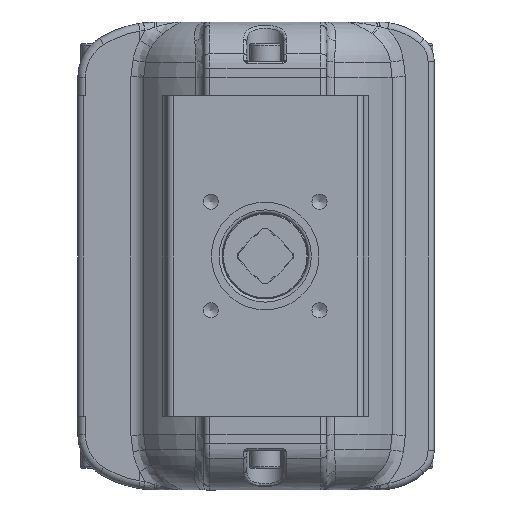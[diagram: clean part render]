
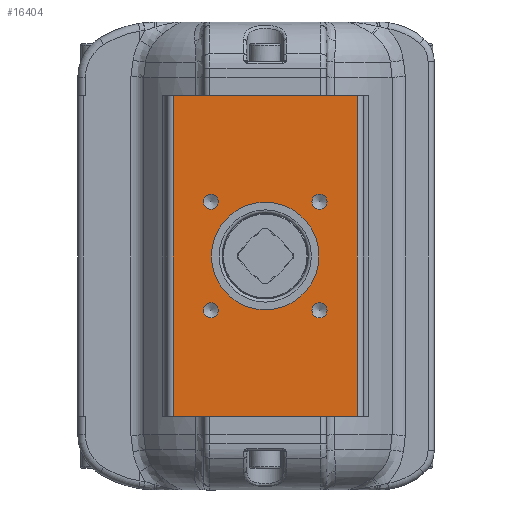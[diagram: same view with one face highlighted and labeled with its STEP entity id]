
A CAD part, front view. The second image highlights one B-rep face of the part: STEP entity #16404.
In plain terms, the highlighted planar face has unit normal (0, -1, 0).
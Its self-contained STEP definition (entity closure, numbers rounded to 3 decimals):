
#393=FACE_BOUND('',#3130,.T.);
#394=FACE_BOUND('',#3131,.T.);
#395=FACE_BOUND('',#3132,.T.);
#396=FACE_BOUND('',#3133,.T.);
#397=FACE_BOUND('',#3134,.T.);
#1300=PLANE('',#18064);
#2185=FACE_OUTER_BOUND('',#3129,.T.);
#3129=EDGE_LOOP('',(#13912,#13913,#13914,#13915));
#3130=EDGE_LOOP('',(#13916));
#3131=EDGE_LOOP('',(#13917));
#3132=EDGE_LOOP('',(#13918));
#3133=EDGE_LOOP('',(#13919));
#3134=EDGE_LOOP('',(#13920));
#3677=LINE('',#31996,#4457);
#3791=LINE('',#37446,#4571);
#3912=LINE('',#38204,#4692);
#3914=LINE('',#38207,#4694);
#4457=VECTOR('',#20830,10.);
#4571=VECTOR('',#21620,10.);
#4692=VECTOR('',#22005,10.);
#4694=VECTOR('',#22009,10.);
#5622=CIRCLE('',#18019,2.459);
#5624=CIRCLE('',#18023,2.459);
#5626=CIRCLE('',#18027,2.459);
#5628=CIRCLE('',#18031,2.459);
#5629=CIRCLE('',#18033,17.5);
#6657=VERTEX_POINT('',#31993);
#6658=VERTEX_POINT('',#31995);
#6964=VERTEX_POINT('',#37443);
#6965=VERTEX_POINT('',#37445);
#7065=VERTEX_POINT('',#37984);
#7068=VERTEX_POINT('',#37993);
#7071=VERTEX_POINT('',#38002);
#7074=VERTEX_POINT('',#38011);
#7075=VERTEX_POINT('',#38015);
#8708=EDGE_CURVE('',#6658,#6657,#3677,.T.);
#9214=EDGE_CURVE('',#6965,#6964,#3791,.T.);
#9365=EDGE_CURVE('',#7065,#7065,#5622,.T.);
#9369=EDGE_CURVE('',#7068,#7068,#5624,.T.);
#9373=EDGE_CURVE('',#7071,#7071,#5626,.T.);
#9377=EDGE_CURVE('',#7074,#7074,#5628,.T.);
#9379=EDGE_CURVE('',#7075,#7075,#5629,.T.);
#9415=EDGE_CURVE('',#6965,#6657,#3912,.T.);
#9417=EDGE_CURVE('',#6658,#6964,#3914,.T.);
#13912=ORIENTED_EDGE('',*,*,#9415,.F.);
#13913=ORIENTED_EDGE('',*,*,#9214,.T.);
#13914=ORIENTED_EDGE('',*,*,#9417,.F.);
#13915=ORIENTED_EDGE('',*,*,#8708,.T.);
#13916=ORIENTED_EDGE('',*,*,#9365,.T.);
#13917=ORIENTED_EDGE('',*,*,#9369,.T.);
#13918=ORIENTED_EDGE('',*,*,#9373,.T.);
#13919=ORIENTED_EDGE('',*,*,#9377,.T.);
#13920=ORIENTED_EDGE('',*,*,#9379,.T.);
#16404=ADVANCED_FACE('',(#2185,#393,#394,#395,#396,#397),#1300,.T.);
#18019=AXIS2_PLACEMENT_3D('',#37985,#21884,#21885);
#18023=AXIS2_PLACEMENT_3D('',#37994,#21894,#21895);
#18027=AXIS2_PLACEMENT_3D('',#38003,#21904,#21905);
#18031=AXIS2_PLACEMENT_3D('',#38012,#21914,#21915);
#18033=AXIS2_PLACEMENT_3D('',#38016,#21919,#21920);
#18064=AXIS2_PLACEMENT_3D('',#38206,#22007,#22008);
#20830=DIRECTION('',(-1.,0.,0.));
#21620=DIRECTION('',(1.,0.,0.));
#21884=DIRECTION('center_axis',(0.,1.,0.));
#21885=DIRECTION('ref_axis',(-1.,0.,0.));
#21894=DIRECTION('center_axis',(0.,1.,0.));
#21895=DIRECTION('ref_axis',(-1.,0.,0.));
#21904=DIRECTION('center_axis',(0.,1.,0.));
#21905=DIRECTION('ref_axis',(-1.,0.,0.));
#21914=DIRECTION('center_axis',(0.,1.,0.));
#21915=DIRECTION('ref_axis',(-1.,0.,0.));
#21919=DIRECTION('center_axis',(0.,1.,0.));
#21920=DIRECTION('ref_axis',(0.,0.,
-1.));
#22005=DIRECTION('',(0.,0.,1.));
#22007=DIRECTION('center_axis',(0.,-1.,0.));
#22008=DIRECTION('ref_axis',(0.,0.,
1.));
#22009=DIRECTION('',(0.,0.,-1.));
#31993=CARTESIAN_POINT('',(-30.,-56.,52.15));
#31995=CARTESIAN_POINT('',(30.,-56.,52.15));
#31996=CARTESIAN_POINT('',(32.,-56.,52.15));
#37443=CARTESIAN_POINT('',(30.,-56.,-52.15));
#37445=CARTESIAN_POINT('',(-30.,-56.,-52.15));
#37446=CARTESIAN_POINT('',(32.,-56.,-52.15));
#37984=CARTESIAN_POINT('',(20.136,-56.,-17.678));
#37985=CARTESIAN_POINT('Origin',(17.678,-56.,-17.678));
#37993=CARTESIAN_POINT('',(-15.219,-56.,17.678));
#37994=CARTESIAN_POINT('Origin',(-17.678,-56.,17.678));
#38002=CARTESIAN_POINT('',(20.136,-56.,17.678));
#38003=CARTESIAN_POINT('Origin',(17.678,-56.,17.678));
#38011=CARTESIAN_POINT('',(-15.219,-56.,-17.678));
#38012=CARTESIAN_POINT('Origin',(-17.678,-56.,-17.678));
#38015=CARTESIAN_POINT('',(0.,-56.,17.5));
#38016=CARTESIAN_POINT('Origin',(0.,-56.,0.));
#38204=CARTESIAN_POINT('',(-30.,-56.,0.));
#38206=CARTESIAN_POINT('Origin',(-32.,-56.,0.));
#38207=CARTESIAN_POINT('',(30.,-56.,0.));
